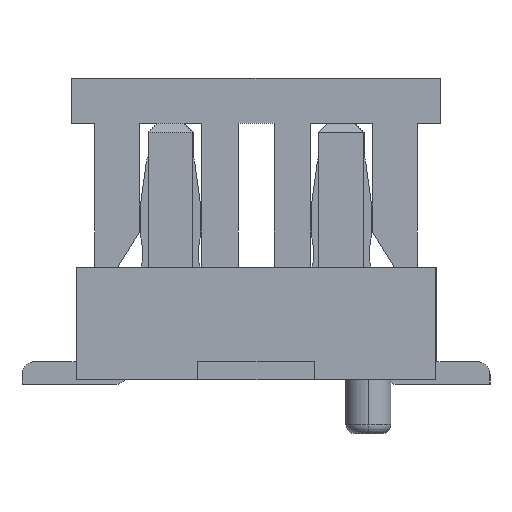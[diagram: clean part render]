
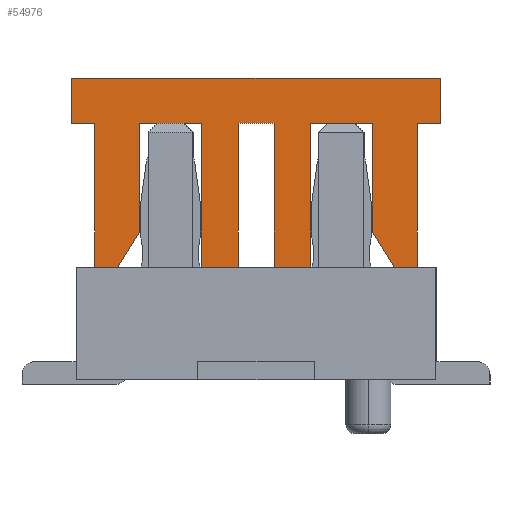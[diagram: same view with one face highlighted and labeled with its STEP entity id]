
A CAD part, left-side view. The second image highlights one B-rep face of the part: STEP entity #54976.
In plain terms, the highlighted planar face has unit normal (-1, 0, 0).
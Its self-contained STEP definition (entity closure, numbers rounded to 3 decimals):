
#54309=CARTESIAN_POINT('Vertex',(-2.,0.61,1.25)) ;
#54314=CARTESIAN_POINT('Line Origine',(-2.,0.61,2.05)) ;
#54318=CARTESIAN_POINT('Vertex',(-2.,0.61,2.85)) ;
#54345=CARTESIAN_POINT('Line Origine',(-2.,0.95,2.85)) ;
#54349=CARTESIAN_POINT('Vertex',(-2.,1.29,2.85)) ;
#54376=CARTESIAN_POINT('Line Origine',(-2.,1.29,2.25)) ;
#54380=CARTESIAN_POINT('Vertex',(-2.,1.29,1.65)) ;
#54407=CARTESIAN_POINT('Line Origine',(-2.,1.415,1.45)) ;
#54411=CARTESIAN_POINT('Vertex',(-2.,1.54,1.25)) ;
#54438=CARTESIAN_POINT('Line Origine',(-2.,1.665,1.25)) ;
#54442=CARTESIAN_POINT('Vertex',(-2.,1.79,1.25)) ;
#54469=CARTESIAN_POINT('Line Origine',(-2.,1.79,2.05)) ;
#54473=CARTESIAN_POINT('Vertex',(-2.,1.79,2.85)) ;
#54495=CARTESIAN_POINT('Line Origine',(-2.,1.92,2.85)) ;
#54499=CARTESIAN_POINT('Vertex',(-2.,2.05,2.85)) ;
#54526=CARTESIAN_POINT('Line Origine',(-2.,2.05,3.1)) ;
#54530=CARTESIAN_POINT('Vertex',(-2.,2.05,3.35)) ;
#54557=CARTESIAN_POINT('Line Origine',(-2.,0.,3.35)) ;
#54561=CARTESIAN_POINT('Vertex',(-2.,-2.05,3.35)) ;
#54588=CARTESIAN_POINT('Line Origine',(-2.,-2.05,3.1)) ;
#54592=CARTESIAN_POINT('Vertex',(-2.,-2.05,2.85)) ;
#54614=CARTESIAN_POINT('Line Origine',(-2.,-1.92,2.85)) ;
#54618=CARTESIAN_POINT('Vertex',(-2.,-1.79,2.85)) ;
#54645=CARTESIAN_POINT('Line Origine',(-2.,-1.79,2.05)) ;
#54649=CARTESIAN_POINT('Vertex',(-2.,-1.79,1.25)) ;
#54671=CARTESIAN_POINT('Line Origine',(-2.,-1.665,1.25)) ;
#54675=CARTESIAN_POINT('Vertex',(-2.,-1.54,1.25)) ;
#54702=CARTESIAN_POINT('Line Origine',(-2.,-1.415,1.45)) ;
#54706=CARTESIAN_POINT('Vertex',(-2.,-1.29,1.65)) ;
#54733=CARTESIAN_POINT('Line Origine',(-2.,-1.29,2.25)) ;
#54737=CARTESIAN_POINT('Vertex',(-2.,-1.29,2.85)) ;
#54759=CARTESIAN_POINT('Line Origine',(-2.,-0.95,2.85)) ;
#54763=CARTESIAN_POINT('Vertex',(-2.,-0.61,2.85)) ;
#54790=CARTESIAN_POINT('Line Origine',(-2.,-0.61,2.05)) ;
#54794=CARTESIAN_POINT('Vertex',(-2.,-0.61,1.25)) ;
#54816=CARTESIAN_POINT('Line Origine',(-2.,-0.405,1.25)) ;
#54820=CARTESIAN_POINT('Vertex',(-2.,-0.2,1.25)) ;
#54847=CARTESIAN_POINT('Line Origine',(-2.,-0.2,2.05)) ;
#54851=CARTESIAN_POINT('Vertex',(-2.,-0.2,2.85)) ;
#54873=CARTESIAN_POINT('Line Origine',(-2.,0.,2.85)) ;
#54877=CARTESIAN_POINT('Vertex',(-2.,0.2,2.85)) ;
#54904=CARTESIAN_POINT('Line Origine',(-2.,0.2,2.05)) ;
#54908=CARTESIAN_POINT('Vertex',(-2.,0.2,1.25)) ;
#54930=CARTESIAN_POINT('Line Origine',(-2.,0.405,1.25)) ;
#54947=CARTESIAN_POINT('Axis2P3D Location',(-2.,0.,0.)) ;
#54315=DIRECTION('Vector Direction',(0.,0.,1.)) ;
#54346=DIRECTION('Vector Direction',(0.,1.,0.)) ;
#54377=DIRECTION('Vector Direction',(0.,0.,-1.)) ;
#54408=DIRECTION('Vector Direction',(0.,0.53,-0.848)) ;
#54439=DIRECTION('Vector Direction',(0.,1.,0.)) ;
#54470=DIRECTION('Vector Direction',(0.,0.,1.)) ;
#54496=DIRECTION('Vector Direction',(0.,1.,0.)) ;
#54527=DIRECTION('Vector Direction',(0.,0.,1.)) ;
#54558=DIRECTION('Vector Direction',(0.,1.,0.)) ;
#54589=DIRECTION('Vector Direction',(0.,0.,1.)) ;
#54615=DIRECTION('Vector Direction',(0.,-1.,0.)) ;
#54646=DIRECTION('Vector Direction',(0.,0.,1.)) ;
#54672=DIRECTION('Vector Direction',(0.,-1.,0.)) ;
#54703=DIRECTION('Vector Direction',(0.,-0.53,-0.848)) ;
#54734=DIRECTION('Vector Direction',(0.,0.,-1.)) ;
#54760=DIRECTION('Vector Direction',(0.,-1.,0.)) ;
#54791=DIRECTION('Vector Direction',(0.,0.,1.)) ;
#54817=DIRECTION('Vector Direction',(0.,-1.,0.)) ;
#54848=DIRECTION('Vector Direction',(0.,0.,1.)) ;
#54874=DIRECTION('Vector Direction',(0.,1.,0.)) ;
#54905=DIRECTION('Vector Direction',(0.,0.,-1.)) ;
#54931=DIRECTION('Vector Direction',(0.,-1.,0.)) ;
#54948=DIRECTION('Axis2P3D Direction',(1.,0.,0.)) ;
#54949=DIRECTION('Axis2P3D XDirection',(0.,1.,0.)) ;
#54950=AXIS2_PLACEMENT_3D('Plane Axis2P3D',#54947,#54948,#54949) ;
#54953=ORIENTED_EDGE('',*,*,#54934,.F.) ;
#54954=ORIENTED_EDGE('',*,*,#54910,.F.) ;
#54955=ORIENTED_EDGE('',*,*,#54879,.F.) ;
#54956=ORIENTED_EDGE('',*,*,#54853,.F.) ;
#54957=ORIENTED_EDGE('',*,*,#54822,.F.) ;
#54958=ORIENTED_EDGE('',*,*,#54796,.F.) ;
#54959=ORIENTED_EDGE('',*,*,#54765,.F.) ;
#54960=ORIENTED_EDGE('',*,*,#54739,.F.) ;
#54961=ORIENTED_EDGE('',*,*,#54708,.F.) ;
#54962=ORIENTED_EDGE('',*,*,#54677,.F.) ;
#54963=ORIENTED_EDGE('',*,*,#54651,.F.) ;
#54964=ORIENTED_EDGE('',*,*,#54620,.F.) ;
#54965=ORIENTED_EDGE('',*,*,#54594,.F.) ;
#54966=ORIENTED_EDGE('',*,*,#54563,.F.) ;
#54967=ORIENTED_EDGE('',*,*,#54532,.F.) ;
#54968=ORIENTED_EDGE('',*,*,#54501,.F.) ;
#54969=ORIENTED_EDGE('',*,*,#54475,.F.) ;
#54970=ORIENTED_EDGE('',*,*,#54444,.F.) ;
#54971=ORIENTED_EDGE('',*,*,#54413,.F.) ;
#54972=ORIENTED_EDGE('',*,*,#54382,.F.) ;
#54973=ORIENTED_EDGE('',*,*,#54351,.F.) ;
#54974=ORIENTED_EDGE('',*,*,#54320,.F.) ;
#54316=VECTOR('Line Direction',#54315,1.) ;
#54347=VECTOR('Line Direction',#54346,1.) ;
#54378=VECTOR('Line Direction',#54377,1.) ;
#54409=VECTOR('Line Direction',#54408,1.) ;
#54440=VECTOR('Line Direction',#54439,1.) ;
#54471=VECTOR('Line Direction',#54470,1.) ;
#54497=VECTOR('Line Direction',#54496,1.) ;
#54528=VECTOR('Line Direction',#54527,1.) ;
#54559=VECTOR('Line Direction',#54558,1.) ;
#54590=VECTOR('Line Direction',#54589,1.) ;
#54616=VECTOR('Line Direction',#54615,1.) ;
#54647=VECTOR('Line Direction',#54646,1.) ;
#54673=VECTOR('Line Direction',#54672,1.) ;
#54704=VECTOR('Line Direction',#54703,1.) ;
#54735=VECTOR('Line Direction',#54734,1.) ;
#54761=VECTOR('Line Direction',#54760,1.) ;
#54792=VECTOR('Line Direction',#54791,1.) ;
#54818=VECTOR('Line Direction',#54817,1.) ;
#54849=VECTOR('Line Direction',#54848,1.) ;
#54875=VECTOR('Line Direction',#54874,1.) ;
#54906=VECTOR('Line Direction',#54905,1.) ;
#54932=VECTOR('Line Direction',#54931,1.) ;
#54976=ADVANCED_FACE('\X2\76D65B50\X0\',(#54975),#54951,.F.) ;
#54320=EDGE_CURVE('',#54310,#54319,#54317,.T.) ;
#54351=EDGE_CURVE('',#54319,#54350,#54348,.T.) ;
#54382=EDGE_CURVE('',#54350,#54381,#54379,.T.) ;
#54413=EDGE_CURVE('',#54381,#54412,#54410,.T.) ;
#54444=EDGE_CURVE('',#54412,#54443,#54441,.T.) ;
#54475=EDGE_CURVE('',#54443,#54474,#54472,.T.) ;
#54501=EDGE_CURVE('',#54474,#54500,#54498,.T.) ;
#54532=EDGE_CURVE('',#54500,#54531,#54529,.T.) ;
#54563=EDGE_CURVE('',#54531,#54562,#54560,.F.) ;
#54594=EDGE_CURVE('',#54562,#54593,#54591,.F.) ;
#54620=EDGE_CURVE('',#54593,#54619,#54617,.F.) ;
#54651=EDGE_CURVE('',#54619,#54650,#54648,.F.) ;
#54677=EDGE_CURVE('',#54650,#54676,#54674,.F.) ;
#54708=EDGE_CURVE('',#54676,#54707,#54705,.F.) ;
#54739=EDGE_CURVE('',#54707,#54738,#54736,.F.) ;
#54765=EDGE_CURVE('',#54738,#54764,#54762,.F.) ;
#54796=EDGE_CURVE('',#54764,#54795,#54793,.F.) ;
#54822=EDGE_CURVE('',#54795,#54821,#54819,.F.) ;
#54853=EDGE_CURVE('',#54821,#54852,#54850,.T.) ;
#54879=EDGE_CURVE('',#54852,#54878,#54876,.T.) ;
#54910=EDGE_CURVE('',#54878,#54909,#54907,.T.) ;
#54934=EDGE_CURVE('',#54909,#54310,#54933,.F.) ;
#54952=EDGE_LOOP('',(#54953,#54954,#54955,#54956,#54957,#54958,#54959,#54960,#54961,#54962,#54963,#54964,#54965,#54966,#54967,#54968,#54969,#54970,#54971,#54972,#54973,#54974)) ;
#54975=FACE_OUTER_BOUND('',#54952,.T.) ;
#54317=LINE('Line',#54314,#54316) ;
#54348=LINE('Line',#54345,#54347) ;
#54379=LINE('Line',#54376,#54378) ;
#54410=LINE('Line',#54407,#54409) ;
#54441=LINE('Line',#54438,#54440) ;
#54472=LINE('Line',#54469,#54471) ;
#54498=LINE('Line',#54495,#54497) ;
#54529=LINE('Line',#54526,#54528) ;
#54560=LINE('Line',#54557,#54559) ;
#54591=LINE('Line',#54588,#54590) ;
#54617=LINE('Line',#54614,#54616) ;
#54648=LINE('Line',#54645,#54647) ;
#54674=LINE('Line',#54671,#54673) ;
#54705=LINE('Line',#54702,#54704) ;
#54736=LINE('Line',#54733,#54735) ;
#54762=LINE('Line',#54759,#54761) ;
#54793=LINE('Line',#54790,#54792) ;
#54819=LINE('Line',#54816,#54818) ;
#54850=LINE('Line',#54847,#54849) ;
#54876=LINE('Line',#54873,#54875) ;
#54907=LINE('Line',#54904,#54906) ;
#54933=LINE('Line',#54930,#54932) ;
#54951=PLANE('Plane',#54950) ;
#54310=VERTEX_POINT('',#54309) ;
#54319=VERTEX_POINT('',#54318) ;
#54350=VERTEX_POINT('',#54349) ;
#54381=VERTEX_POINT('',#54380) ;
#54412=VERTEX_POINT('',#54411) ;
#54443=VERTEX_POINT('',#54442) ;
#54474=VERTEX_POINT('',#54473) ;
#54500=VERTEX_POINT('',#54499) ;
#54531=VERTEX_POINT('',#54530) ;
#54562=VERTEX_POINT('',#54561) ;
#54593=VERTEX_POINT('',#54592) ;
#54619=VERTEX_POINT('',#54618) ;
#54650=VERTEX_POINT('',#54649) ;
#54676=VERTEX_POINT('',#54675) ;
#54707=VERTEX_POINT('',#54706) ;
#54738=VERTEX_POINT('',#54737) ;
#54764=VERTEX_POINT('',#54763) ;
#54795=VERTEX_POINT('',#54794) ;
#54821=VERTEX_POINT('',#54820) ;
#54852=VERTEX_POINT('',#54851) ;
#54878=VERTEX_POINT('',#54877) ;
#54909=VERTEX_POINT('',#54908) ;
